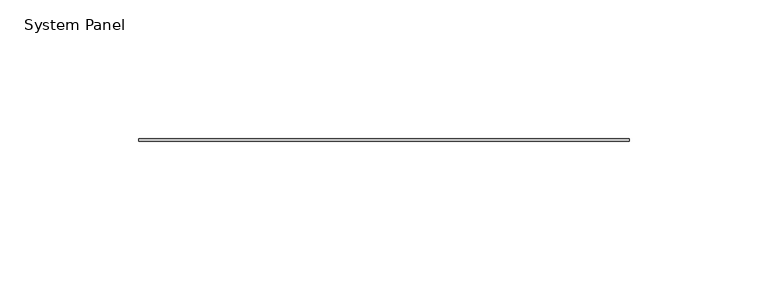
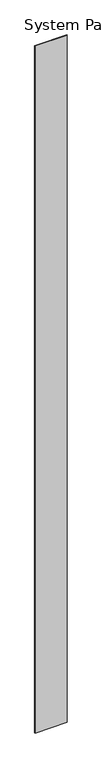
"""IFC4 building model written with IfcOpenShell, lengths in millimetres: plate geometry, System Panel : Stratco_Hiland_Interlock_Panel."""

import ifcopenshell
import ifcopenshell.guid

model = None  # the IFC model being written
_history = None  # IfcOwnerHistory: only IFC2X3 demands one
_inside = {}  # id of a spatial element -> (the spatial element, [elements in it])
_under = {}  # id of a project, library or spatial element -> (it, [spatial elements below it])
_declared = {}  # id of a project -> (the project, [libraries it declares])
_typed = {}  # id of a type object -> (the type object, [elements of that type])
_made_of = {}  # id of a material, layer set ... -> (it, [elements and type objects made of it])


def new_model(schema):
    """Start an empty IFC model of exactly this schema.

    Asked for "IFC4X3", IfcOpenShell would pick the latest addendum, in which some entities
    have other attributes; the version numbers below select the first issue.
    IFC2X3 requires an IfcOwnerHistory on every rooted entity: one is made here for all.
    """
    global model, _history
    if schema == "IFC4X3":
        model = ifcopenshell.file(schema_version=(4, 3, 0, 0))
    else:
        model = ifcopenshell.file(schema=schema)
    _inside.clear()
    _under.clear()
    _declared.clear()
    _typed.clear()
    _made_of.clear()
    _history = None
    if model.schema == "IFC2X3":
        org = make("IfcOrganization", Name="unknown")
        user = make(
            "IfcPersonAndOrganization",
            ThePerson=make("IfcPerson", FamilyName="unknown"),
            TheOrganization=org,
        )
        app = make(
            "IfcApplication",
            ApplicationDeveloper=org,
            Version="unknown",
            ApplicationFullName="unknown",
            ApplicationIdentifier="unknown",
        )
        _history = make(
            "IfcOwnerHistory",
            OwningUser=user,
            OwningApplication=app,
            ChangeAction="ADDED",
            CreationDate=0,
        )
    return model


def make(cls, **values):
    """One entity of the class cls with the attributes given. An attribute that is None is left unset."""
    return model.create_entity(
        cls, **{name: value for name, value in values.items() if value is not None}
    )


def rooted(cls, **values):
    """An entity with a GlobalId (a new one), such as an element, a storey or a relation."""
    return make(cls, GlobalId=ifcopenshell.guid.new(), OwnerHistory=_history, **values)


def si_unit(unit_type, name, prefix=None):
    """IfcSIUnit, for example si_unit("LENGTHUNIT", "METRE", prefix="MILLI")."""
    return make("IfcSIUnit", UnitType=unit_type, Prefix=prefix, Name=name)


def assignment(units):
    """IfcUnitAssignment: the units of a project."""
    return None if units is None else make("IfcUnitAssignment", Units=units)


def point(xyz):
    """IfcCartesianPoint."""
    return None if xyz is None else make("IfcCartesianPoint", Coordinates=xyz)


def direction(xyz):
    """IfcDirection."""
    return None if xyz is None else make("IfcDirection", DirectionRatios=xyz)


def frame(location, z_axis=None, x_axis=None):
    """IfcAxis2Placement3D, a coordinate frame: its origin and axes. An axis left out is left unset."""
    return make(
        "IfcAxis2Placement3D",
        Location=point(location),
        Axis=direction(z_axis),
        RefDirection=direction(x_axis),
    )


def origin():
    """The frame at (0, 0, 0) with its axes left unset."""
    return frame((0.0, 0.0, 0.0))


def origin_with_axes():
    """The frame at (0, 0, 0) with the z axis (0, 0, 1) and the x axis (1, 0, 0) written out."""
    return frame((0.0, 0.0, 0.0), z_axis=(0.0, 0.0, 1.0), x_axis=(1.0, 0.0, 0.0))


def place(relative_to, where):
    """IfcLocalPlacement: puts the frame where relative to a parent placement (None: the world)."""
    return make(
        "IfcLocalPlacement", PlacementRelTo=relative_to, RelativePlacement=where
    )


def context(
    kind, dimensions, precision=None, world=None, true_north=None, identifier=None
):
    """IfcGeometricRepresentationContext, for example the 3D "Model" context."""
    return make(
        "IfcGeometricRepresentationContext",
        ContextIdentifier=identifier,
        ContextType=kind,
        CoordinateSpaceDimension=dimensions,
        Precision=precision,
        WorldCoordinateSystem=world,
        TrueNorth=true_north,
    )


def project(units=None, contexts=None):
    """IfcProject with its units and contexts."""
    return rooted(
        "IfcProject",
        Name="project",
        RepresentationContexts=contexts,
        UnitsInContext=assignment(units),
    )


def spatial(cls, under=None, at=None, **own):
    """A site, building, storey or space (cls), placed at a placement, below another one or the project."""
    s = rooted(cls, ObjectPlacement=at, **own)
    if under is not None:
        _under.setdefault(under.id(), (under, []))[1].append(s)
    return s


def polyline(points):
    """IfcPolyline through the points."""
    return make("IfcPolyline", Points=[point(p) for p in points])


def outline(outer, holes=None, kind="AREA"):
    """IfcArbitraryClosedProfileDef: a profile drawn as a closed curve; with holes, ...WithVoids."""
    if holes is None:
        return make("IfcArbitraryClosedProfileDef", ProfileType=kind, OuterCurve=outer)
    return make(
        "IfcArbitraryProfileDefWithVoids",
        ProfileType=kind,
        OuterCurve=outer,
        InnerCurves=holes,
    )


def extrude(swept, where, along, depth):
    """IfcExtrudedAreaSolid: the profile swept, set in the frame where, extruded along a direction by depth."""
    return make(
        "IfcExtrudedAreaSolid",
        SweptArea=swept,
        Position=where,
        ExtrudedDirection=direction(along),
        Depth=depth,
    )


def shape(context_of_items, identifier, shape_type, items):
    """IfcShapeRepresentation: the items that make up one representation, for example the "Body"."""
    return make(
        "IfcShapeRepresentation",
        ContextOfItems=context_of_items,
        RepresentationIdentifier=identifier,
        RepresentationType=shape_type,
        Items=items,
    )


def source(mapping_origin, context_of_items, identifier, shape_type, items):
    """IfcRepresentationMap: a shape defined once, which mapped items show again and again."""
    return make(
        "IfcRepresentationMap",
        MappingOrigin=mapping_origin,
        MappedRepresentation=shape(context_of_items, identifier, shape_type, items),
    )


def transform(
    local_origin,
    x_axis=None,
    y_axis=None,
    z_axis=None,
    scale=None,
    scale2=None,
    scale3=None,
    uniform=True,
):
    """IfcCartesianTransformationOperator3D, or its non-uniform kind. x_axis, y_axis, z_axis: its Axis1, 2, 3."""
    if uniform:
        return make(
            "IfcCartesianTransformationOperator3D",
            Axis1=direction(x_axis),
            Axis2=direction(y_axis),
            LocalOrigin=point(local_origin),
            Scale=scale,
            Axis3=direction(z_axis),
        )
    return make(
        "IfcCartesianTransformationOperator3DnonUniform",
        Axis1=direction(x_axis),
        Axis2=direction(y_axis),
        LocalOrigin=point(local_origin),
        Scale=scale,
        Axis3=direction(z_axis),
        Scale2=scale2,
        Scale3=scale3,
    )


def mapped(mapping_source, mapping_target):
    """IfcMappedItem: shows the shape of a source again, moved by a transform."""
    return make(
        "IfcMappedItem", MappingSource=mapping_source, MappingTarget=mapping_target
    )


def made_of(thing, what):
    """Note that an element or type object is made of a material, layer set ...; save() writes the relation."""
    if what is not None:
        _made_of.setdefault(what.id(), (what, []))[1].append(thing)
    return thing


def element(
    cls,
    number,
    at=None,
    inside=None,
    cuts=None,
    type_object=None,
    material=None,
    context=None,
    identifier="Body",
    shape_type=None,
    held_by="IfcProductDefinitionShape",
    body=None,
    shapes=None,
    **own,
):
    """One element of the class cls, such as IfcWall. Its Tag is "e" and its number.

    at: its placement. inside: the storey or other place that contains it. cuts: it is an
    opening in that element (IfcRelVoidsElement). A single representation is given by context,
    identifier, shape_type and body (its items); several are given by shapes. held_by: the class
    of the entity that holds the representations. save() writes the other relations.
    """
    e = rooted(cls, Tag="e%d" % number, ObjectPlacement=at, **own)
    if body is not None:
        shapes = [shape(context, identifier, shape_type, body)]
    if shapes is not None:
        e.Representation = make(held_by, Representations=shapes)
    if inside is not None:
        _inside.setdefault(inside.id(), (inside, []))[1].append(e)
    if cuts is not None:
        rooted(
            "IfcRelVoidsElement", RelatingBuildingElement=cuts, RelatedOpeningElement=e
        )
    if type_object is not None:
        _typed.setdefault(type_object.id(), (type_object, []))[1].append(e)
    return made_of(e, material)


def aggregate(whole, parts):
    """IfcRelAggregates: a whole, such as a stair, and the parts it consists of."""
    return rooted("IfcRelAggregates", RelatingObject=whole, RelatedObjects=parts)


def save(model, path):
    """Write the relations noted so far, then the file.

    IfcRelAggregates (storeys below a building ...), IfcRelContainedInSpatialStructure (elements
    in a storey), IfcRelDefinesByType, IfcRelAssociatesMaterial and IfcRelDeclares: one each for
    every whole, place, type object, material and project.
    """
    for whole, parts in _under.values():
        aggregate(whole, parts)
    for where, things in _inside.values():
        rooted(
            "IfcRelContainedInSpatialStructure",
            RelatedElements=things,
            RelatingStructure=where,
        )
    for kind, things in _typed.values():
        rooted("IfcRelDefinesByType", RelatedObjects=things, RelatingType=kind)
    for what, things in _made_of.values():
        rooted("IfcRelAssociatesMaterial", RelatedObjects=things, RelatingMaterial=what)
    for by, libraries in _declared.values():
        rooted("IfcRelDeclares", RelatingContext=by, RelatedDefinitions=libraries)
    model.write(path)


def system_panel_34544f3b(model_context):
    return source(origin(), model_context, "Body", "SweptSolid", [
        extrude(outline(polyline([(88.4999998, 24.0), (-88.4999998, 24.0), (-88.4999998, 25.0), (88.4999998, 25.0), (88.4999998, 24.0)])), origin_with_axes(), (0.0, 0.0, 1.0), 4000.0),
    ])


if __name__ == "__main__":
    model = new_model("IFC4")
    model_context = context("Model", 3, world=origin())
    ifc_project = project(units=[si_unit("LENGTHUNIT", "METRE", prefix="MILLI")], contexts=[model_context])
    site = spatial("IfcSite", under=ifc_project)
    building = spatial("IfcBuilding", under=site)
    placement = place(None, origin())
    system_panel_shape = system_panel_34544f3b(model_context)
    element("IfcPlate", 1, ObjectType="System Panel : Stratco_Hiland_Interlock_Panel", at=placement, inside=building, context=model_context, shape_type="MappedRepresentation", body=[
        mapped(system_panel_shape, transform((0.0, 0.0, 0.0), x_axis=(1.0, 0.0, 0.0), y_axis=(0.0, 1.0, 0.0), z_axis=(0.0, 0.0, 1.0))),
    ])
    save(model, "model.ifc")
